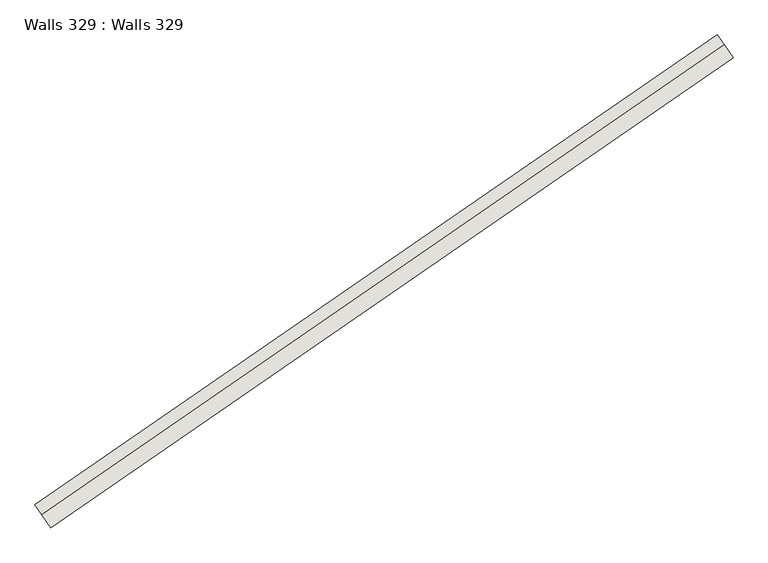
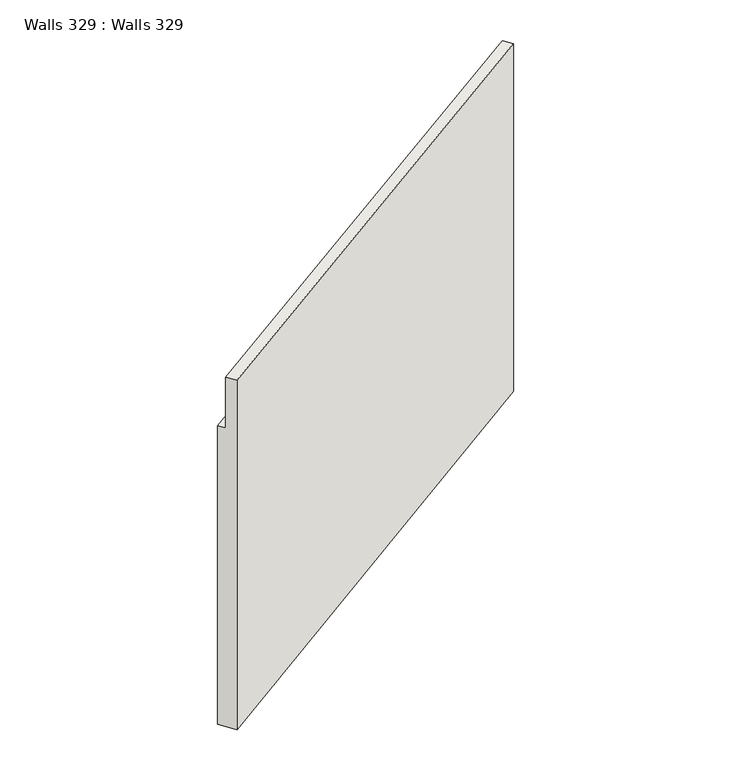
"""IFC4 building model written with IfcOpenShell, lengths in millimetres: wall geometry, Walls 329 : Walls 329."""

from ifc_helpers import new_model, si_unit, origin, place, context, project, spatial, faceted_brep, source, transform, mapped, element, save


def walls_329_walls_329_dd6f837c(model_context):
    return source(origin(), model_context, "Body", "Brep", [
        faceted_brep([(-288803.4579408, -402900.9655716, 640321.0546718), (-288803.4579408, -402900.9655716, 634406.9235431), (-288604.9139801, -403189.2020989, 634406.9235431), (-288604.9139801, -403189.2020989, 641321.0546718), (-288718.367672, -403024.4955118, 641321.0546718), (-288718.367672, -403024.4955118, 640321.0546718), (-280201.4515239, -396975.7053613, 640380.0), (-280116.361255, -397099.2353015, 640380.0), (-280116.361255, -397099.2353015, 641380.0), (-280002.9075632, -397263.9418885, 641380.0), (-280002.9075632, -397263.9418885, 634496.0), (-280201.4515239, -396975.7053613, 634496.0)], [[[0, 1, 2, 3, 4, 5]], [[6, 7, 8, 9, 10, 11]], [[9, 8, 4, 3]], [[7, 6, 0, 5]], [[11, 10, 2, 1]], [[6, 11, 1, 0]], [[10, 9, 3, 2]], [[8, 7, 5, 4]]]),
    ])


if __name__ == "__main__":
    model = new_model("IFC4")
    model_context = context("Model", 3, world=origin())
    ifc_project = project(units=[si_unit("LENGTHUNIT", "METRE", prefix="MILLI")], contexts=[model_context])
    site = spatial("IfcSite", under=ifc_project)
    building = spatial("IfcBuilding", under=site)
    placement = place(None, origin())
    walls_329_walls_329_shape = walls_329_walls_329_dd6f837c(model_context)
    element("IfcWall", 1, ObjectType="Walls 329 : Walls 329", at=placement, inside=building, context=model_context, shape_type="MappedRepresentation", body=[
        mapped(walls_329_walls_329_shape, transform((0.0, 0.0, 0.0), x_axis=(1.0, 0.0, 0.0), y_axis=(0.0, 1.0, 0.0), z_axis=(0.0, 0.0, 1.0))),
    ])
    save(model, "model.ifc")
